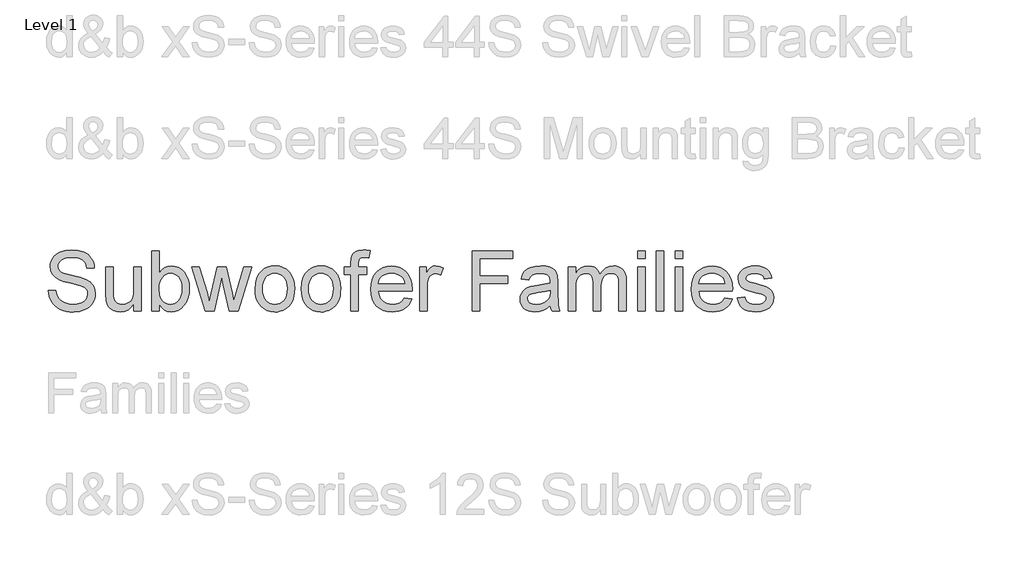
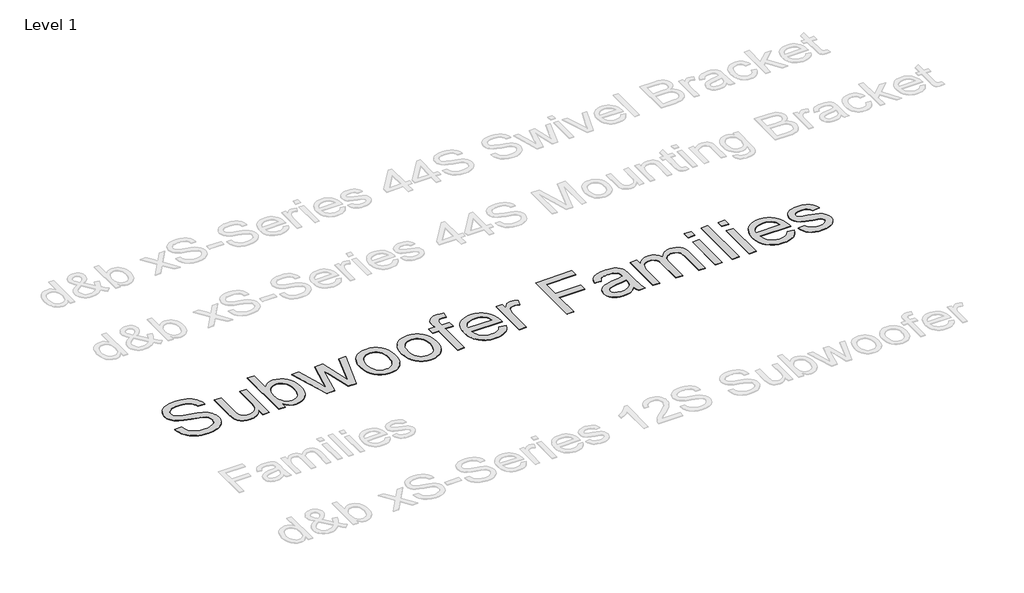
# One storey, part 24 of 55: 1 proxy.
"""IFC4 building model written with IfcOpenShell, lengths in millimetres."""

from ifc_helpers import new_model, si_unit, origin, origin_with_axes, place, context, project, spatial, polyline, outline, extrude, element, save

model = new_model("IFC4")

# Units and contexts
model_context = context("Model", 3, world=origin())
ifc_project = project(units=[si_unit("LENGTHUNIT", "METRE", prefix="MILLI")], contexts=[model_context])

# Site, building, storey
site = spatial("IfcSite", under=ifc_project)
building = spatial("IfcBuilding", under=site)
storey = spatial("IfcBuildingStorey", under=building, Name="Level 1", Elevation=0.0)

# Proxy
placement = place(None, origin())
element("IfcBuildingElementProxy", 1, Name="600mm Arial", ObjectType="600mm Arial", at=placement, inside=storey, context=model_context, shape_type="SweptSolid", body=[
    extrude(outline(polyline([(-21062.646299, -11945.6175934), (-20988.8001451, -11945.6175934), (-20980.3265874, -11986.5971607), (-20965.0020682, -12019.5358626), (-20941.0958182, -12045.6776895), (-20906.8770682, -12066.2666318), (-20865.0501451, -12079.6260068), (-20818.3193759, -12084.0791318), (-20777.177549, -12080.7077376), (-20741.1559143, -12070.5935549), (-20711.9672124, -12054.5839395), (-20691.3241836, -12033.5262472), (-20679.0465393, -12009.3495645), (-20674.9539913, -11983.982978), (-20678.0188951, -11959.2654299), (-20687.2136067, -11937.9012472), (-20705.8914913, -11919.6740837), (-20737.4059143, -11904.3675934), (-20844.9299528, -11876.170478), (-20915.5128855, -11857.5106222), (-20960.6751451, -11839.7522087), (-20997.4359624, -11814.9084587), (-21023.4876451, -11784.8002857), (-21039.0104817, -11750.076728), (-21044.1847605, -11711.3868241), (-21042.5847004, -11689.396139), (-21037.7845201, -11668.1356222), (-21029.7842196, -11647.6052736), (-21018.583799, -11627.8050934), (-21004.30946, -11609.5418722), (-20987.0874047, -11593.622401), (-20966.9176331, -11580.0466799), (-20943.8001451, -11568.8147087), (-20891.8410105, -11553.7245645), (-20834.3289913, -11548.6945164), (-20772.021299, -11553.9589395), (-20717.5020682, -11569.7522087), (-20693.6499047, -11581.5160309), (-20672.7184143, -11595.7498049), (-20654.707597, -11612.4535309), (-20639.6174528, -11631.6272087), (-20627.5651692, -11652.7119443), (-20618.6679336, -11675.1488434), (-20612.9257461, -11698.9379059), (-20610.3386067, -11724.0791318), (-20684.1847605, -11724.0791318), (-20689.1246643, -11700.5154299), (-20697.7424528, -11680.0166318), (-20710.0381259, -11662.5827376), (-20726.0116836, -11648.2137472), (-20745.9606018, -11636.981776), (-20770.1823567, -11628.9589395), (-20798.676948, -11624.1452376), (-20831.4443759, -11622.5406703), (-20865.2574768, -11624.1272087), (-20894.1487028, -11628.8868241), (-20918.1180538, -11636.8195164), (-20937.1655297, -11647.9252857), (-20951.6787509, -11661.2756462), (-20962.0453374, -11675.9421126), (-20968.2652893, -11691.9246847), (-20970.3386067, -11709.2233626), (-20964.4612028, -11737.6007664), (-20946.8289913, -11760.4252857), (-20930.6390874, -11770.575526), (-20905.146299, -11780.8339395), (-20826.2520682, -11801.6752857), (-20744.833799, -11821.4709587), (-20695.5789913, -11838.7425934), (-20653.4816355, -11865.5334587), (-20637.2060946, -11881.2816559), (-20624.1126451, -11898.5983626), (-20614.0480417, -11917.3934347), (-20606.8590393, -11937.576728), (-20601.1078374, -11982.107978), (-20602.7619841, -12005.2074371), (-20607.724424, -12027.6308145), (-20615.9951571, -12049.3781102), (-20627.5741836, -12070.4493241), (-20642.2586788, -12090.028651), (-20659.8458182, -12107.3002857), (-20680.3356018, -12122.264228), (-20703.7280297, -12134.920478), (-20729.3425129, -12144.9850813), (-20756.4984624, -12152.1740837), (-20815.4347605, -12157.9252857), (-20853.2097004, -12156.3748049), (-20887.7845201, -12151.7233626), (-20919.1592196, -12143.9709587), (-20947.333799, -12133.1175934), (-20972.4795321, -12119.1452376), (-20994.7676932, -12102.0358626), (-21014.1982821, -12081.7894684), (-21030.771299, -12058.4060549), (-21044.1216595, -12032.6428337), (-21053.8842797, -12005.2570164), (-21060.0591595, -11976.248603), (-21062.646299, -11945.6175934)])), origin_with_axes(), (0.0, 0.0, 1.0), 5.0),
    extrude(outline(polyline([(-20222.646299, -12148.6945164), (-20222.646299, -12074.1272087), (-20249.365049, -12110.7888674), (-20280.4828374, -12136.9757664), (-20315.9996643, -12152.6879059), (-20355.9155297, -12157.9252857), (-20391.8830778, -12154.247401), (-20425.3626451, -12143.2137472), (-20453.4515874, -12126.6272087), (-20473.2472605, -12106.2906703), (-20486.5705778, -12081.591151), (-20495.2424528, -12051.9156703), (-20499.5693759, -11983.2618241), (-20499.5693759, -11714.8483626), (-20425.723222, -11714.8483626), (-20425.723222, -11948.5022087), (-20424.6054336, -11995.232978), (-20421.2520682, -12023.7906703), (-20410.488847, -12048.904853), (-20392.0453374, -12067.997401), (-20367.1475009, -12080.0586991), (-20337.021299, -12084.0791318), (-20305.1643278, -12079.9685549), (-20275.3626451, -12067.6368241), (-20250.7893278, -12048.2197568), (-20234.6174528, -12022.8531703), (-20225.6390874, -11988.1115837), (-20222.646299, -11940.5695164), (-20222.646299, -11714.8483626), (-20148.8001451, -11714.8483626), (-20148.8001451, -12148.6945164), (-20222.646299, -12148.6945164)])), origin_with_axes(), (0.0, 0.0, 1.0), 5.0),
    extrude(outline(polyline([(-19973.4155297, -12148.6945164), (-20047.2616836, -12148.6945164), (-20047.2616836, -11557.9252857), (-19973.4155297, -11557.9252857), (-19973.4155297, -11777.0118241), (-19949.130674, -11745.7768482), (-19921.708799, -11723.466151), (-19891.1499047, -11710.0797328), (-19857.4539913, -11705.6175934), (-19819.4131259, -11709.638026), (-19783.4636067, -11721.6993241), (-19751.660722, -11741.044276), (-19726.0597605, -11766.9156703), (-19705.9936547, -11799.061103), (-19690.7953374, -11837.2281703), (-19681.2220201, -11879.8303337), (-19678.0309143, -11925.2810549), (-19681.3347004, -11977.7269684), (-19691.2460586, -12023.8627857), (-19707.7649889, -12063.6885068), (-19730.8914913, -12097.2041318), (-19758.6514071, -12123.7696366), (-19789.0705778, -12142.7449972), (-19822.1490033, -12154.1302135), (-19857.8866836, -12157.9252857), (-19892.6913711, -12153.0304539), (-19923.5477413, -12138.3459587), (-19950.4557942, -12113.8718001), (-19973.4155297, -12079.607978), (-19973.4155297, -12148.6945164)]), holes=[polyline([(-19973.4155297, -11928.7425934), (-19968.3674528, -11990.3291318), (-19962.0573567, -12013.6584587), (-19953.223222, -12032.0118241), (-19935.3295922, -12054.7912712), (-19914.5333182, -12071.0623049), (-19890.8343999, -12080.8249251), (-19864.2328374, -12084.0791318), (-19842.1475009, -12081.6812953), (-19821.6126451, -12074.4877857), (-19802.6282701, -12062.498603), (-19785.1943759, -12045.7137472), (-19770.6180538, -12024.1782905), (-19760.2063951, -11997.9373049), (-19753.9593999, -11966.9907905), (-19751.8770682, -11931.3387472), (-19753.8737629, -11895.0106222), (-19759.863847, -11863.7666318), (-19769.8473206, -11837.606776), (-19783.8241836, -11816.5310549), (-19800.6315754, -11800.3141078), (-19819.1066355, -11788.7305741), (-19839.2493639, -11781.7804539), (-19861.0597605, -11779.4637472), (-19883.145097, -11781.8615837), (-19903.6799528, -11789.0550934), (-19922.6643278, -11801.044276), (-19940.098222, -11817.8291318), (-19954.6745442, -11839.1482424), (-19965.0862028, -11864.7401895), (-19971.333198, -11894.6049732), (-19973.4155297, -11928.7425934)])]), origin_with_axes(), (0.0, 0.0, 1.0), 5.0),
    extrude(outline(polyline([(-19522.4059143, -12148.6945164), (-19654.9539913, -11714.8483626), (-19578.3674528, -11714.8483626), (-19503.3674528, -11967.9733626), (-19481.0116836, -12058.4060549), (-19462.6943759, -11971.2906703), (-19403.1270682, -11714.8483626), (-19315.4347605, -11714.8483626), (-19255.8674528, -11970.5695164), (-19239.5693759, -12049.4637472), (-19216.2039913, -11966.2425934), (-19141.2039913, -11714.8483626), (-19064.1847605, -11714.8483626), (-19197.1655297, -12148.6945164), (-19286.3001451, -12148.6945164), (-19343.1270682, -11894.2714395), (-19359.5693759, -11814.9445164), (-19432.6943759, -12148.6945164), (-19522.4059143, -12148.6945164)])), origin_with_axes(), (0.0, 0.0, 1.0), 5.0),
    extrude(outline(polyline([(-19031.8770682, -11931.7714395), (-19027.8836788, -11875.5845405), (-19015.9035105, -11827.1680741), (-18995.9365634, -11786.5220405), (-18967.9828374, -11753.6464395), (-18939.8398086, -11732.6338193), (-18908.7761067, -11717.6248049), (-18874.7917317, -11708.6193962), (-18837.8866836, -11705.6175934), (-18797.1459985, -11709.2729419), (-18760.3085586, -11720.2389876), (-18727.3743639, -11738.5157304), (-18698.3434143, -11764.1031703), (-18674.6490033, -11796.1359227), (-18657.724424, -11833.748603), (-18647.5696764, -11876.9412111), (-18644.1847605, -11925.7137472), (-18645.6811547, -11965.2419924), (-18650.1703374, -12000.3171126), (-18657.6523086, -12030.9391078), (-18668.1270682, -12057.107978), (-18681.4639071, -12079.7116438), (-18697.5321163, -12099.638026), (-18716.3316956, -12116.8871246), (-18737.8626451, -12131.4589395), (-18761.2866235, -12143.0379659), (-18785.7652893, -12151.3086991), (-18811.2986427, -12156.271139), (-18837.8866836, -12157.9252857), (-18879.2223206, -12154.2834587), (-18916.4023086, -12143.357978), (-18949.4266475, -12125.1488434), (-18978.2953374, -12099.6560549), (-19001.7373446, -12067.3123049), (-19018.4816355, -12028.5502857), (-19028.52821, -11983.3699972), (-19031.8770682, -11931.7714395)]), holes=[polyline([(-18958.0309143, -11931.6272087), (-18955.8944961, -11967.4460188), (-18949.4852413, -11998.4601414), (-18938.8031499, -12024.6695765), (-18923.848222, -12046.0743241), (-18905.6571163, -12062.7014275), (-18885.2664913, -12074.5779299), (-18862.676347, -12081.7038313), (-18837.8866836, -12084.0791318), (-18813.223222, -12081.6903097), (-18790.723222, -12074.5238434), (-18770.3866836, -12062.5797328), (-18752.2136067, -12045.857978), (-18737.2586788, -12024.2413914), (-18726.5765874, -11997.6127857), (-18720.1673326, -11965.9721607), (-18718.0309143, -11929.3195164), (-18720.1808542, -11894.6365236), (-18726.630674, -11864.4336991), (-18737.3803735, -11838.7110429), (-18752.4299528, -11817.4685549), (-18770.6706379, -11800.8414515), (-18790.9936547, -11788.9649491), (-18813.3990033, -11781.8390477), (-18837.8866836, -11779.4637472), (-18862.676347, -11781.8300333), (-18885.2664913, -11788.9288914), (-18905.6571163, -11800.7603217), (-18923.848222, -11817.3243241), (-18938.8031499, -11838.6659708), (-18949.4852413, -11864.8303337), (-18955.8944961, -11895.8174131), (-18958.0309143, -11931.6272087)])]), origin_with_axes(), (0.0, 0.0, 1.0), 5.0),
    extrude(outline(polyline([(-18579.5693759, -11931.7714395), (-18575.5759865, -11875.5845405), (-18563.5958182, -11827.1680741), (-18543.6288711, -11786.5220405), (-18515.6751451, -11753.6464395), (-18487.5321163, -11732.6338193), (-18456.4684143, -11717.6248049), (-18422.4840393, -11708.6193962), (-18385.5789913, -11705.6175934), (-18344.8383062, -11709.2729419), (-18308.0008663, -11720.2389876), (-18275.0666716, -11738.5157304), (-18246.035722, -11764.1031703), (-18222.341311, -11796.1359227), (-18205.4167317, -11833.748603), (-18195.2619841, -11876.9412111), (-18191.8770682, -11925.7137472), (-18193.3734624, -11965.2419924), (-18197.8626451, -12000.3171126), (-18205.3446163, -12030.9391078), (-18215.8193759, -12057.107978), (-18229.1562148, -12079.7116438), (-18245.224424, -12099.638026), (-18264.0240033, -12116.8871246), (-18285.5549528, -12131.4589395), (-18308.9789312, -12143.0379659), (-18333.457597, -12151.3086991), (-18358.9909504, -12156.271139), (-18385.5789913, -12157.9252857), (-18426.9146283, -12154.2834587), (-18464.0946163, -12143.357978), (-18497.1189552, -12125.1488434), (-18525.9876451, -12099.6560549), (-18549.4296523, -12067.3123049), (-18566.1739432, -12028.5502857), (-18576.2205177, -11983.3699972), (-18579.5693759, -11931.7714395)]), holes=[polyline([(-18505.723222, -11931.6272087), (-18503.5868038, -11967.4460188), (-18497.177549, -11998.4601414), (-18486.4954576, -12024.6695765), (-18471.5405297, -12046.0743241), (-18453.349424, -12062.7014275), (-18432.958799, -12074.5779299), (-18410.3686547, -12081.7038313), (-18385.5789913, -12084.0791318), (-18360.9155297, -12081.6903097), (-18338.4155297, -12074.5238434), (-18318.0789913, -12062.5797328), (-18299.9059143, -12045.857978), (-18284.9509865, -12024.2413914), (-18274.2688951, -11997.6127857), (-18267.8596403, -11965.9721607), (-18265.723222, -11929.3195164), (-18267.8731619, -11894.6365236), (-18274.3229817, -11864.4336991), (-18285.0726812, -11838.7110429), (-18300.1222605, -11817.4685549), (-18318.3629456, -11800.8414515), (-18338.6859624, -11788.9649491), (-18361.091311, -11781.8390477), (-18385.5789913, -11779.4637472), (-18410.3686547, -11781.8300333), (-18432.958799, -11788.9288914), (-18453.349424, -11800.7603217), (-18471.5405297, -11817.3243241), (-18486.4954576, -11838.6659708), (-18497.177549, -11864.8303337), (-18503.5868038, -11895.8174131), (-18505.723222, -11931.6272087)])]), origin_with_axes(), (0.0, 0.0, 1.0), 5.0),
    extrude(outline(polyline([(-18090.3386067, -12148.6945164), (-18090.3386067, -11788.6945164), (-18154.9539913, -11788.6945164), (-18154.9539913, -11714.8483626), (-18090.3386067, -11714.8483626), (-18090.3386067, -11671.1464395), (-18088.3914913, -11634.9805741), (-18082.5501451, -11609.559901), (-18067.6943759, -11585.0046126), (-18044.7616836, -11565.5695164), (-18012.6703374, -11552.9132664), (-17970.3386067, -11548.6945164), (-17938.2833182, -11550.7137472), (-17902.9828374, -11556.7714395), (-17913.8001451, -11626.0022087), (-17956.348222, -11622.5406703), (-17984.4191355, -11625.6055741), (-18002.8626451, -11634.8002857), (-18013.0850009, -11652.3603818), (-18016.4924528, -11680.5214395), (-18016.4924528, -11714.8483626), (-17933.4155297, -11714.8483626), (-17933.4155297, -11788.6945164), (-18016.4924528, -11788.6945164), (-18016.4924528, -12148.6945164), (-18090.3386067, -12148.6945164)])), origin_with_axes(), (0.0, 0.0, 1.0), 5.0),
    extrude(outline(polyline([(-17565.0501451, -12019.4637472), (-17492.646299, -12028.6945164), (-17503.747561, -12057.6939155), (-17518.7340393, -12083.2498049), (-17537.6057341, -12105.3621847), (-17560.3626451, -12124.0310549), (-17586.7703975, -12138.8597809), (-17616.5946163, -12149.451728), (-17649.8353014, -12155.8068962), (-17686.4924528, -12157.9252857), (-17732.3127653, -12154.2699371), (-17773.1390874, -12143.3038914), (-17808.9714192, -12125.0271486), (-17839.8097605, -12099.4397087), (-17864.6084384, -12067.2537111), (-17882.3217797, -12029.1812953), (-17892.9497845, -11985.2224611), (-17896.4924528, -11935.3772087), (-17892.9137268, -11883.841752), (-17882.177549, -11838.4180741), (-17864.2839192, -11799.1061751), (-17839.2328374, -11765.9060549), (-17808.4756259, -11739.529853), (-17773.4636067, -11720.6897087), (-17734.1967797, -11709.3856222), (-17690.6751451, -11705.6175934), (-17648.5552533, -11709.3766078), (-17610.4648086, -11720.653651), (-17576.403811, -11739.4487232), (-17546.3722605, -11765.7618241), (-17521.8575369, -11798.8898289), (-17504.3470201, -11838.1296126), (-17493.84071, -11883.4811751), (-17490.3386067, -11934.9445164), (-17490.771299, -11954.8483626), (-17822.646299, -11954.8483626), (-17818.3689552, -11984.3165116), (-17809.863847, -12010.1248049), (-17797.1309744, -12032.2732424), (-17780.1703374, -12050.7618241), (-17759.919436, -12065.3381462), (-17737.3157701, -12075.7498049), (-17712.3593398, -12081.9968001), (-17685.0501451, -12084.0791318), (-17645.7472605, -12080.2209587), (-17612.646299, -12068.6464395), (-17585.7472605, -12048.6344203), (-17565.0501451, -12019.4637472)]), holes=[polyline([(-17822.646299, -11881.0022087), (-17564.1847605, -11881.0022087), (-17574.1727413, -11841.9877857), (-17582.7634865, -11826.6452376), (-17593.7520682, -11814.0791318), (-17613.8902893, -11798.934901), (-17636.8049528, -11788.1175934), (-17662.4960586, -11781.6272087), (-17690.9636067, -11779.4637472), (-17716.9296523, -11781.1900092), (-17740.7412509, -11786.3687953), (-17762.3984023, -11795.0001054), (-17781.9011067, -11807.0839395), (-17798.2667917, -11822.0614034), (-17810.5128855, -11839.373603), (-17818.6393879, -11859.0205381), (-17822.646299, -11881.0022087)])]), origin_with_axes(), (0.0, 0.0, 1.0), 5.0),
    extrude(outline(polyline([(-17416.4924528, -12148.6945164), (-17416.4924528, -11714.8483626), (-17351.8770682, -11714.8483626), (-17351.8770682, -11779.0310549), (-17328.0068759, -11741.8195164), (-17306.0116836, -11719.8964395), (-17283.9443759, -11709.1873049), (-17259.8578374, -11705.6175934), (-17223.0789913, -11711.3147087), (-17185.723222, -11728.4060549), (-17210.3866836, -11794.607978), (-17236.348222, -11783.2498049), (-17262.3097605, -11779.4637472), (-17284.3590393, -11783.1055741), (-17304.0645682, -11794.0310549), (-17319.9840393, -11811.4108626), (-17330.6751451, -11834.4156703), (-17339.6535105, -11875.6656703), (-17342.646299, -11920.6656703), (-17342.646299, -12148.6945164), (-17416.4924528, -12148.6945164)])), origin_with_axes(), (0.0, 0.0, 1.0), 5.0),
    extrude(outline(polyline([(-16899.5693759, -12148.6945164), (-16899.5693759, -11557.9252857), (-16502.646299, -11557.9252857), (-16502.646299, -11631.7714395), (-16825.723222, -11631.7714395), (-16825.723222, -11807.1560549), (-16548.8001451, -11807.1560549), (-16548.8001451, -11881.0022087), (-16825.723222, -11881.0022087), (-16825.723222, -12148.6945164), (-16899.5693759, -12148.6945164)])), origin_with_axes(), (0.0, 0.0, 1.0), 5.0),
    extrude(outline(polyline([(-16133.4155297, -12093.309901), (-16168.6979817, -12123.5623049), (-16205.0261067, -12143.357978), (-16243.2292317, -12154.2834587), (-16284.1366836, -12157.9252857), (-16317.0167917, -12155.7347809), (-16345.849424, -12149.1632664), (-16370.6345802, -12138.2107424), (-16391.3722605, -12122.8772087), (-16407.74696, -12104.1362232), (-16419.443174, -12082.9613434), (-16426.4609023, -12059.3525693), (-16428.8001451, -12033.309901), (-16425.2664913, -12002.6969203), (-16414.6655297, -11974.8964395), (-16398.3133663, -11951.0983626), (-16377.5261067, -11932.4925934), (-16353.0970201, -11918.4300934), (-16325.8193759, -11908.2618241), (-16261.9251451, -11897.1560549), (-16186.4203374, -11885.4733626), (-16133.848222, -11871.7714395), (-16133.4155297, -11855.3291318), (-16138.4996643, -11822.372401), (-16144.8548326, -11810.1668722), (-16153.7520682, -11800.809901), (-16169.130674, -11791.4709587), (-16187.8626451, -11784.8002857), (-16235.3866836, -11779.4637472), (-16279.3770682, -11783.0154299), (-16310.098222, -11793.670478), (-16331.0477413, -11813.3760068), (-16345.723222, -11844.0791318), (-16419.5693759, -11834.8483626), (-16406.7508663, -11794.4637472), (-16387.6222605, -11762.732978), (-16360.3987028, -11738.466151), (-16323.2953374, -11720.4733626), (-16277.9167317, -11709.3315357), (-16225.8674528, -11705.6175934), (-16175.9455778, -11708.8988434), (-16136.3722605, -11718.7425934), (-16106.5345201, -11733.544276), (-16085.8193759, -11751.6993241), (-16072.0813951, -11774.1452376), (-16063.1751451, -11801.8195164), (-16059.5693759, -11866.434901), (-16059.5693759, -11958.309901), (-16055.8193759, -12086.6031703), (-16050.2664913, -12118.3159107), (-16041.1078374, -12148.6945164), (-16114.9539913, -12148.6945164), (-16126.7809143, -12123.0214395), (-16133.4155297, -12093.309901)]), holes=[polyline([(-16133.4155297, -11945.6175934), (-16183.0309143, -11957.9132664), (-16252.5501451, -11968.2618241), (-16316.083799, -11980.232978), (-16332.6162509, -11988.4180741), (-16344.8578374, -11999.7041318), (-16352.4299528, -12013.2257664), (-16354.9539913, -12028.1175934), (-16349.4551932, -12050.076728), (-16332.958799, -12068.0695164), (-16305.8253855, -12080.076728), (-16268.4155297, -12084.0791318), (-16228.7520682, -12079.6620645), (-16193.7039913, -12066.4108626), (-16165.2905297, -12046.8856222), (-16145.5309143, -12023.6464395), (-16136.7688951, -11999.7041318), (-16133.848222, -11966.5310549), (-16133.4155297, -11945.6175934)])]), origin_with_axes(), (0.0, 0.0, 1.0), 5.0),
    extrude(outline(polyline([(-15958.0309143, -12148.6945164), (-15958.0309143, -11714.8483626), (-15884.1847605, -11714.8483626), (-15884.1847605, -11786.2425934), (-15861.973222, -11753.4481222), (-15833.4155297, -11727.7570164), (-15799.4852413, -11711.1524491), (-15761.1559143, -11705.6175934), (-15720.0862028, -11711.2606222), (-15702.6072365, -11718.3144083), (-15687.1655297, -11728.1897087), (-15662.5741836, -11755.2870645), (-15646.4924528, -11791.434901), (-15619.5753855, -11753.8898289), (-15588.8722605, -11727.0719203), (-15554.3830778, -11710.9811751), (-15516.1078374, -11705.6175934), (-15486.5450369, -11707.8486631), (-15460.5970201, -11714.5418722), (-15438.2637869, -11725.6972208), (-15419.5453374, -11741.3147087), (-15404.7481619, -11761.5746246), (-15394.1787509, -11786.6572568), (-15387.8371042, -11816.5626054), (-15385.723222, -11851.2906703), (-15385.723222, -12148.6945164), (-15459.5693759, -12148.6945164), (-15459.5693759, -11883.0214395), (-15461.2821163, -11846.1885068), (-15466.4203374, -11821.3627857), (-15476.0477413, -11804.3615837), (-15491.2280297, -11791.0022087), (-15510.7532701, -11782.3483626), (-15533.4155297, -11779.4637472), (-15554.3425129, -11781.3117039), (-15573.4215393, -11786.8555741), (-15590.6526091, -11796.0953578), (-15606.035722, -11809.0310549), (-15618.6874648, -11826.0412712), (-15627.724424, -11847.5046126), (-15633.1465994, -11873.4210789), (-15634.9539913, -11903.7906703), (-15634.9539913, -12148.6945164), (-15708.8001451, -12148.6945164), (-15708.8001451, -11874.8002857), (-15713.0729817, -11833.045478), (-15725.8914913, -11803.2618241), (-15735.8028494, -11792.8501655), (-15748.4455778, -11785.4132664), (-15763.8196764, -11780.951127), (-15781.9251451, -11779.4637472), (-15810.3746643, -11783.4300934), (-15836.5886067, -11795.3291318), (-15858.223222, -11814.872401), (-15872.9347605, -11841.7714395), (-15881.3722605, -11879.091151), (-15884.1847605, -11929.8964395), (-15884.1847605, -12148.6945164), (-15958.0309143, -12148.6945164)])), origin_with_axes(), (0.0, 0.0, 1.0), 5.0),
    extrude(outline(polyline([(-15274.9539913, -11631.7714395), (-15274.9539913, -11557.9252857), (-15201.1078374, -11557.9252857), (-15201.1078374, -11631.7714395), (-15274.9539913, -11631.7714395)])), origin_with_axes(), (0.0, 0.0, 1.0), 5.0),
    extrude(outline(polyline([(-15274.9539913, -12148.6945164), (-15274.9539913, -11714.8483626), (-15201.1078374, -11714.8483626), (-15201.1078374, -12148.6945164), (-15274.9539913, -12148.6945164)])), origin_with_axes(), (0.0, 0.0, 1.0), 5.0),
    extrude(outline(polyline([(-15090.3386067, -12148.6945164), (-15090.3386067, -11557.9252857), (-15016.4924528, -11557.9252857), (-15016.4924528, -12148.6945164), (-15090.3386067, -12148.6945164)])), origin_with_axes(), (0.0, 0.0, 1.0), 5.0),
    extrude(outline(polyline([(-14905.723222, -11631.7714395), (-14905.723222, -11557.9252857), (-14831.8770682, -11557.9252857), (-14831.8770682, -11631.7714395), (-14905.723222, -11631.7714395)])), origin_with_axes(), (0.0, 0.0, 1.0), 5.0),
    extrude(outline(polyline([(-14905.723222, -12148.6945164), (-14905.723222, -11714.8483626), (-14831.8770682, -11714.8483626), (-14831.8770682, -12148.6945164), (-14905.723222, -12148.6945164)])), origin_with_axes(), (0.0, 0.0, 1.0), 5.0),
    extrude(outline(polyline([(-14417.3578374, -12019.4637472), (-14344.9539913, -12028.6945164), (-14356.0552533, -12057.6939155), (-14371.0417317, -12083.2498049), (-14389.9134264, -12105.3621847), (-14412.6703374, -12124.0310549), (-14439.0780898, -12138.8597809), (-14468.9023086, -12149.451728), (-14502.1429937, -12155.8068962), (-14538.8001451, -12157.9252857), (-14584.6204576, -12154.2699371), (-14625.4467797, -12143.3038914), (-14661.2791115, -12125.0271486), (-14692.1174528, -12099.4397087), (-14716.9161307, -12067.2537111), (-14734.629472, -12029.1812953), (-14745.2574768, -11985.2224611), (-14748.8001451, -11935.3772087), (-14745.2214192, -11883.841752), (-14734.4852413, -11838.4180741), (-14716.5916115, -11799.1061751), (-14691.5405297, -11765.9060549), (-14660.7833182, -11739.529853), (-14625.771299, -11720.6897087), (-14586.504472, -11709.3856222), (-14542.9828374, -11705.6175934), (-14500.8629456, -11709.3766078), (-14462.7725009, -11720.653651), (-14428.7115033, -11739.4487232), (-14398.6799528, -11765.7618241), (-14374.1652292, -11798.8898289), (-14356.6547124, -11838.1296126), (-14346.1484023, -11883.4811751), (-14342.646299, -11934.9445164), (-14343.0789913, -11954.8483626), (-14674.9539913, -11954.8483626), (-14670.6766475, -11984.3165116), (-14662.1715393, -12010.1248049), (-14649.4386667, -12032.2732424), (-14632.4780297, -12050.7618241), (-14612.2271283, -12065.3381462), (-14589.6234624, -12075.7498049), (-14564.6670321, -12081.9968001), (-14537.3578374, -12084.0791318), (-14498.0549528, -12080.2209587), (-14464.9539913, -12068.6464395), (-14438.0549528, -12048.6344203), (-14417.3578374, -12019.4637472)]), holes=[polyline([(-14674.9539913, -11881.0022087), (-14416.4924528, -11881.0022087), (-14426.4804336, -11841.9877857), (-14435.0711788, -11826.6452376), (-14446.0597605, -11814.0791318), (-14466.1979817, -11798.934901), (-14489.1126451, -11788.1175934), (-14514.8037509, -11781.6272087), (-14543.271299, -11779.4637472), (-14569.2373446, -11781.1900092), (-14593.0489432, -11786.3687953), (-14614.7060946, -11795.0001054), (-14634.208799, -11807.0839395), (-14650.5744841, -11822.0614034), (-14662.8205778, -11839.373603), (-14670.9470802, -11859.0205381), (-14674.9539913, -11881.0022087)])]), origin_with_axes(), (0.0, 0.0, 1.0), 5.0),
    extrude(outline(polyline([(-14296.4924528, -12019.4637472), (-14222.646299, -12010.232978), (-14218.1841595, -12027.0719203), (-14210.9996643, -12041.8195164), (-14201.0928134, -12054.4757664), (-14188.4636067, -12065.0406703), (-14173.0759865, -12073.3699972), (-14154.8938951, -12079.3195164), (-14110.146299, -12084.0791318), (-14065.9395682, -12079.716151), (-14048.7580778, -12074.2624251), (-14034.8578374, -12066.6272087), (-14016.4684143, -12047.6608626), (-14010.3386067, -12025.6656703), (-14011.880073, -12015.6957184), (-14016.504472, -12006.8435549), (-14035.0020682, -11992.4925934), (-14062.6583182, -11983.1175934), (-14111.0116836, -11971.434901), (-14178.4035105, -11951.9457184), (-14222.2136067, -11935.3050934), (-14250.3566355, -11917.1500453), (-14270.7472605, -11893.1175934), (-14283.1330778, -11864.7401895), (-14287.2616836, -11833.5502857), (-14283.9443759, -11804.9385068), (-14273.9924528, -11778.5262472), (-14258.3073567, -11755.3591799), (-14237.7905297, -11736.482978), (-14217.3999047, -11724.6019684), (-14190.8434143, -11714.6320164), (-14160.1402893, -11707.8711991), (-14127.3097605, -11705.6175934), (-14079.2448567, -11709.2413914), (-14037.4539913, -11720.1127857), (-14003.848222, -11737.1680741), (-13980.3386067, -11759.3435549), (-13964.7616836, -11788.279853), (-13954.9539913, -11825.6175934), (-14028.8001451, -11834.8483626), (-14038.1210586, -11811.6091799), (-14056.5645682, -11794.1031703), (-14084.3109624, -11783.123603), (-14121.5405297, -11779.4637472), (-14163.9443759, -11782.9613434), (-14192.2136067, -11793.4541318), (-14208.115049, -11808.5983626), (-14213.4155297, -11826.0502857), (-14211.2160105, -11837.4084587), (-14204.6174528, -11847.5406703), (-14193.3313951, -11856.591151), (-14177.0693759, -11863.8387472), (-14113.4636067, -11879.559901), (-14005.0741836, -11914.3195164), (-13976.4443759, -11930.9421126), (-13954.7376451, -11953.6945164), (-13941.0537509, -11982.6488434), (-13936.4924528, -12017.8772087), (-13941.8470201, -12054.295478), (-13957.910722, -12088.5502857), (-13984.0705778, -12117.9553337), (-14019.7136067, -12139.8243241), (-14062.7664913, -12153.4000453), (-14111.1559143, -12157.9252857), (-14150.9005057, -12155.7437953), (-14185.615049, -12149.1993241), (-14215.2995442, -12138.2918722), (-14239.9539913, -12123.0214395), (-14260.0922124, -12103.4601414), (-14276.2280297, -12079.6800934), (-14288.3614432, -12051.6812953), (-14296.4924528, -12019.4637472)])), origin_with_axes(), (0.0, 0.0, 1.0), 5.0),
])

save(model, "model.ifc")
